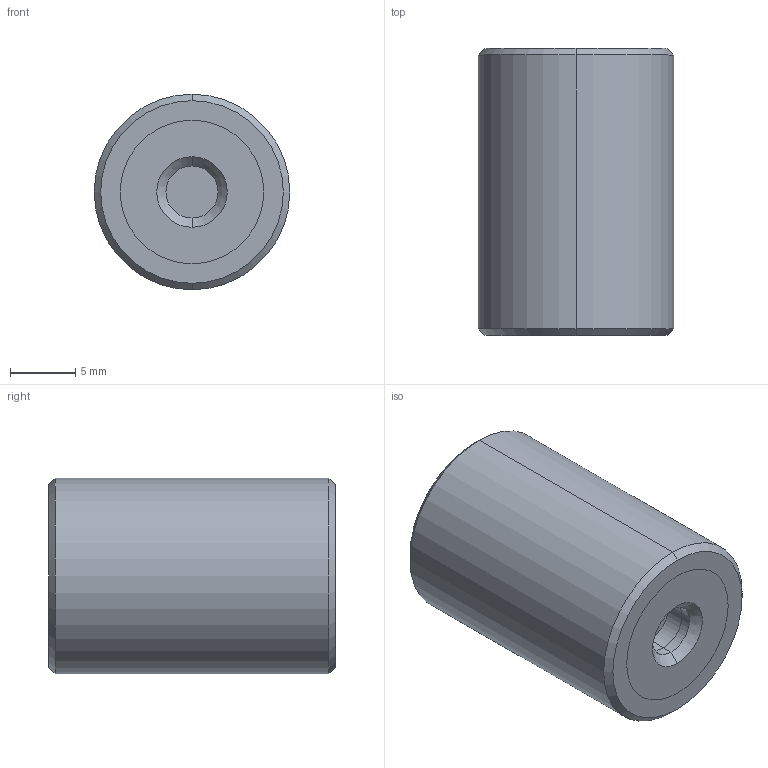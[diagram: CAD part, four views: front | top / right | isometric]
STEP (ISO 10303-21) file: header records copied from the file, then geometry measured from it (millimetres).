
FILE_DESCRIPTION (( 'STEP AP203' ), '1' );
FILE_NAME ('61080.W0153.step', '2018-07-16T20:41:54', ( '' ), ( '' ), 'SwSTEP 2.0', 'SolidWorks 2017', '' );
FILE_SCHEMA (( 'CONFIG_CONTROL_DESIGN' ));
Length unit declared in the file: millimetre
Products named in the file (4): Part3_61080.W0153; Part1_61080.W0153; 61080.W0153; Part2_61080.W0153
Assembly tree (3 placements, depth 2):
  61080.W0153
    Part1_61080.W0153
    Part2_61080.W0153
    Part3_61080.W0153
Bounding box: 15 x 22 x 15 mm (x, y, z)
Volume: 3793.9 mm3; surface area: 1965.5 mm2
Topology: 3 solids, 3 shells, 36 faces, 70 edges, 44 vertices
Faces by surface type: cylinder 18, plane 10, cone 8
Entity records: 1356 total; most frequent: DIRECTION 198, CARTESIAN_POINT 156, ORIENTED_EDGE 140, AXIS2_PLACEMENT_3D 86, EDGE_CURVE 70, CIRCLE 44, VERTEX_POINT 44, EDGE_LOOP 44
